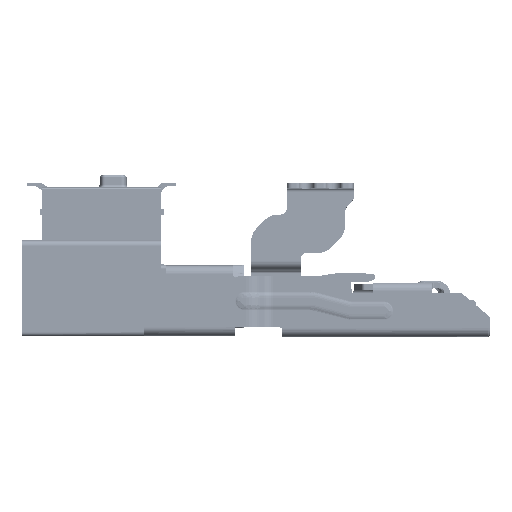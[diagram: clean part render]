
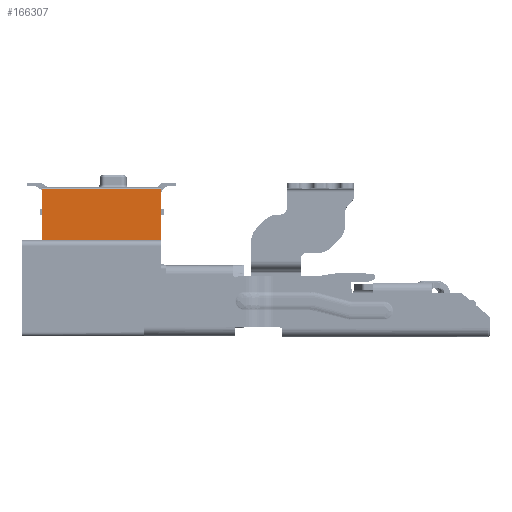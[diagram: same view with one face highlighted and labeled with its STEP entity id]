
A CAD part, front view. The second image highlights one B-rep face of the part: STEP entity #166307.
In plain terms, the highlighted planar face has unit normal (0, -1, 0).
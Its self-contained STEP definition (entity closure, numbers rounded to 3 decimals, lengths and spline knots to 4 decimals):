
#2846=DIRECTION('',(0.,0.,-1.));
#2847=VECTOR('',#2846,2.65);
#2848=CARTESIAN_POINT('',(3.7,-36.,5.775));
#2849=LINE('',#2848,#2847);
#9329=DIRECTION('',(1.,0.,0.));
#9330=VECTOR('',#9329,6.2);
#9331=CARTESIAN_POINT('',(-2.5,-36.,5.775));
#9332=LINE('',#9331,#9330);
#9333=DIRECTION('',(1.,0.,0.));
#9334=VECTOR('',#9333,6.2);
#9335=CARTESIAN_POINT('',(-2.5,-36.,3.125));
#9336=LINE('',#9335,#9334);
#9483=DIRECTION('',(0.,0.,1.));
#9484=VECTOR('',#9483,2.65);
#9485=CARTESIAN_POINT('',(-2.5,-36.,3.125));
#9486=LINE('',#9485,#9484);
#120007=CARTESIAN_POINT('',(3.7,-36.,3.125));
#120008=VERTEX_POINT('',#120007);
#120051=CARTESIAN_POINT('',(3.7,-36.,5.775));
#120052=VERTEX_POINT('',#120051);
#120103=CARTESIAN_POINT('',(-2.5,-36.,3.125));
#120104=VERTEX_POINT('',#120103);
#120171=CARTESIAN_POINT('',(-2.5,-36.,5.775));
#120172=VERTEX_POINT('',#120171);
#166294=CARTESIAN_POINT('',(-2.5,-36.,5.875));
#166295=DIRECTION('',(0.,-1.,0.));
#166296=DIRECTION('',(1.,0.,0.));
#166297=AXIS2_PLACEMENT_3D('',#166294,#166295,#166296);
#166298=PLANE('',#166297);
#166300=ORIENTED_EDGE('',*,*,#166299,.T.);
#166301=ORIENTED_EDGE('',*,*,#166287,.T.);
#166302=ORIENTED_EDGE('',*,*,#162175,.T.);
#166304=ORIENTED_EDGE('',*,*,#166303,.F.);
#166305=EDGE_LOOP('',(#166300,#166301,#166302,#166304));
#166306=FACE_OUTER_BOUND('',#166305,.F.);
#162175=EDGE_CURVE('',#120052,#120008,#2849,.T.);
#166287=EDGE_CURVE('',#120172,#120052,#9332,.T.);
#166299=EDGE_CURVE('',#120104,#120172,#9486,.T.);
#166303=EDGE_CURVE('',#120104,#120008,#9336,.T.);
#166307=ADVANCED_FACE('',(#166306),#166298,.T.);
